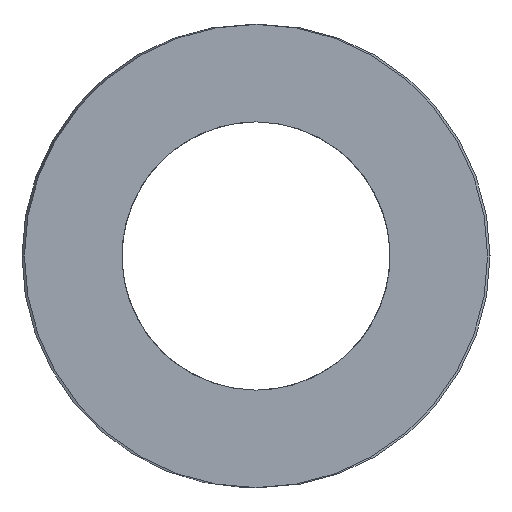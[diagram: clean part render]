
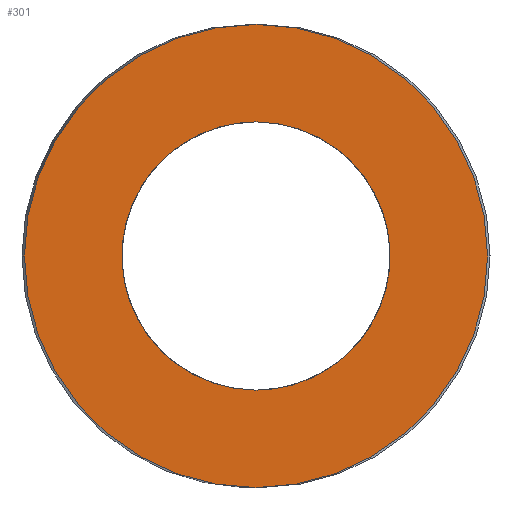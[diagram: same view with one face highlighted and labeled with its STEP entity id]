
A CAD part, left-side view. The second image highlights one B-rep face of the part: STEP entity #301.
In plain terms, the highlighted planar face has unit normal (-1, 0, 0).
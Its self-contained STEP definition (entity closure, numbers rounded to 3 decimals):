
#63=CARTESIAN_POINT('Vertex',(0.,7.6,0.)) ;
#77=CARTESIAN_POINT('Vertex',(0.,-7.6,0.)) ;
#80=CARTESIAN_POINT('Axis2P3D Location',(0.,0.,0.)) ;
#97=CARTESIAN_POINT('Axis2P3D Location',(0.,0.,0.)) ;
#232=CARTESIAN_POINT('Axis2P3D Location',(0.,3.8,0.)) ;
#242=CARTESIAN_POINT('Control Point',(0.,0.,-4.4)) ;
#243=CARTESIAN_POINT('Control Point',(0.,0.411,-4.4)) ;
#244=CARTESIAN_POINT('Control Point',(0.,0.822,-4.352)) ;
#245=CARTESIAN_POINT('Control Point',(0.,1.226,-4.256)) ;
#246=CARTESIAN_POINT('Control Point',(0.,2.003,-3.972)) ;
#247=CARTESIAN_POINT('Control Point',(0.,2.694,-3.516)) ;
#248=CARTESIAN_POINT('Control Point',(0.,3.011,-3.248)) ;
#249=CARTESIAN_POINT('Control Point',(0.,3.577,-2.644)) ;
#250=CARTESIAN_POINT('Control Point',(0.,3.988,-1.926)) ;
#251=CARTESIAN_POINT('Control Point',(0.,4.151,-1.544)) ;
#252=CARTESIAN_POINT('Control Point',(0.,4.384,-0.75)) ;
#253=CARTESIAN_POINT('Control Point',(0.,4.428,0.076)) ;
#254=CARTESIAN_POINT('Control Point',(0.,4.402,0.49)) ;
#255=CARTESIAN_POINT('Control Point',(0.,4.252,1.304)) ;
#256=CARTESIAN_POINT('Control Point',(0.,3.92,2.062)) ;
#257=CARTESIAN_POINT('Control Point',(0.,3.71,2.42)) ;
#258=CARTESIAN_POINT('Control Point',(0.,3.21,3.079)) ;
#259=CARTESIAN_POINT('Control Point',(0.,2.571,3.606)) ;
#260=CARTESIAN_POINT('Control Point',(0.,2.223,3.831)) ;
#261=CARTESIAN_POINT('Control Point',(0.,1.581,4.145)) ;
#262=CARTESIAN_POINT('Control Point',(0.,0.892,4.324)) ;
#263=CARTESIAN_POINT('Control Point',(0.,0.597,4.375)) ;
#264=CARTESIAN_POINT('Control Point',(0.,0.298,4.4)) ;
#265=CARTESIAN_POINT('Control Point',(0.,0.,4.4)) ;
#266=CARTESIAN_POINT('Vertex',(0.,0.,-4.4)) ;
#268=CARTESIAN_POINT('Vertex',(0.,0.,4.4)) ;
#272=CARTESIAN_POINT('Control Point',(0.,0.,4.4)) ;
#273=CARTESIAN_POINT('Control Point',(0.,-0.411,4.4)) ;
#274=CARTESIAN_POINT('Control Point',(0.,-0.822,4.352)) ;
#275=CARTESIAN_POINT('Control Point',(0.,-1.226,4.256)) ;
#276=CARTESIAN_POINT('Control Point',(0.,-2.003,3.972)) ;
#277=CARTESIAN_POINT('Control Point',(0.,-2.694,3.516)) ;
#278=CARTESIAN_POINT('Control Point',(0.,-3.011,3.248)) ;
#279=CARTESIAN_POINT('Control Point',(0.,-3.577,2.644)) ;
#280=CARTESIAN_POINT('Control Point',(0.,-3.988,1.926)) ;
#281=CARTESIAN_POINT('Control Point',(0.,-4.151,1.544)) ;
#282=CARTESIAN_POINT('Control Point',(0.,-4.384,0.75)) ;
#283=CARTESIAN_POINT('Control Point',(0.,-4.428,-0.076)) ;
#284=CARTESIAN_POINT('Control Point',(0.,-4.402,-0.49)) ;
#285=CARTESIAN_POINT('Control Point',(0.,-4.252,-1.304)) ;
#286=CARTESIAN_POINT('Control Point',(0.,-3.92,-2.062)) ;
#287=CARTESIAN_POINT('Control Point',(0.,-3.71,-2.42)) ;
#288=CARTESIAN_POINT('Control Point',(0.,-3.21,-3.079)) ;
#289=CARTESIAN_POINT('Control Point',(0.,-2.571,-3.606)) ;
#290=CARTESIAN_POINT('Control Point',(0.,-2.223,-3.831)) ;
#291=CARTESIAN_POINT('Control Point',(0.,-1.581,-4.145)) ;
#292=CARTESIAN_POINT('Control Point',(0.,-0.892,-4.324)) ;
#293=CARTESIAN_POINT('Control Point',(0.,-0.597,-4.375)) ;
#294=CARTESIAN_POINT('Control Point',(0.,-0.298,-4.4)) ;
#295=CARTESIAN_POINT('Control Point',(0.,0.,-4.4)) ;
#81=DIRECTION('Axis2P3D Direction',(1.,-0.,0.)) ;
#98=DIRECTION('Axis2P3D Direction',(1.,-0.,0.)) ;
#233=DIRECTION('Axis2P3D Direction',(-1.,0.,0.)) ;
#234=DIRECTION('Axis2P3D XDirection',(0.,1.,0.)) ;
#82=AXIS2_PLACEMENT_3D('Circle Axis2P3D',#80,#81,$) ;
#99=AXIS2_PLACEMENT_3D('Circle Axis2P3D',#97,#98,$) ;
#235=AXIS2_PLACEMENT_3D('Plane Axis2P3D',#232,#233,#234) ;
#238=ORIENTED_EDGE('',*,*,#84,.T.) ;
#239=ORIENTED_EDGE('',*,*,#101,.T.) ;
#298=ORIENTED_EDGE('',*,*,#270,.T.) ;
#299=ORIENTED_EDGE('',*,*,#296,.T.) ;
#300=FACE_BOUND('',#297,.T.) ;
#301=ADVANCED_FACE('392-B16-064',(#240,#300),#236,.T.) ;
#241=B_SPLINE_CURVE_WITH_KNOTS('',5,(#242,#243,#244,#245,#246,#247,#248,#249,#250,#251,#252,#253,#254,#255,#256,#257,#258,#259,#260,#261,#262,#263,#264,#265),.UNSPECIFIED.,.F.,.U.,(6,3,3,3,3,3,3,6),(0.,2.907,5.813,8.72,11.626,14.533,17.439,19.549),.UNSPECIFIED.) ;
#271=B_SPLINE_CURVE_WITH_KNOTS('',5,(#272,#273,#274,#275,#276,#277,#278,#279,#280,#281,#282,#283,#284,#285,#286,#287,#288,#289,#290,#291,#292,#293,#294,#295),.UNSPECIFIED.,.F.,.U.,(6,3,3,3,3,3,3,6),(0.,2.907,5.813,8.72,11.626,14.533,17.439,19.549),.UNSPECIFIED.) ;
#83=CIRCLE('generated circle',#82,7.6) ;
#100=CIRCLE('generated circle',#99,7.6) ;
#84=EDGE_CURVE('',#64,#78,#83,.F.) ;
#101=EDGE_CURVE('',#78,#64,#100,.F.) ;
#270=EDGE_CURVE('',#267,#269,#241,.T.) ;
#296=EDGE_CURVE('',#269,#267,#271,.T.) ;
#237=EDGE_LOOP('',(#238,#239)) ;
#297=EDGE_LOOP('',(#298,#299)) ;
#240=FACE_OUTER_BOUND('',#237,.T.) ;
#236=PLANE('Plane',#235) ;
#64=VERTEX_POINT('',#63) ;
#78=VERTEX_POINT('',#77) ;
#267=VERTEX_POINT('',#266) ;
#269=VERTEX_POINT('',#268) ;
